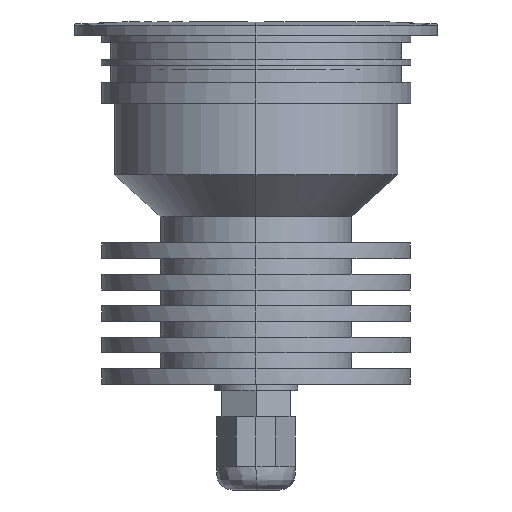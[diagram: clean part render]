
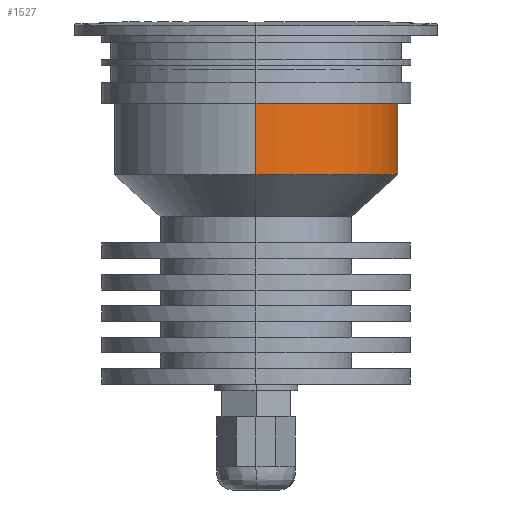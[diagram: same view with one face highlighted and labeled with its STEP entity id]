
A CAD part, left-side view. The second image highlights one B-rep face of the part: STEP entity #1527.
In plain terms, the highlighted free-form (B-spline) face has degree [1, 2] with [2, 5] control points.
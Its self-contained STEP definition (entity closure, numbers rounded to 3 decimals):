
#1527=ADVANCED_FACE('',(#2897),#44705,.T.);
#2897=FACE_OUTER_BOUND('',#4370,.T.);
#4370=EDGE_LOOP('',(#8775,#8776,#8777,#8778));
#8775=ORIENTED_EDGE('',*,*,#31938,.F.);
#8776=ORIENTED_EDGE('',*,*,#31940,.T.);
#8777=ORIENTED_EDGE('',*,*,#31941,.T.);
#8778=ORIENTED_EDGE('',*,*,#31942,.T.);
#12583=(
BOUNDED_CURVE()
B_SPLINE_CURVE(2,(#88150,#88151,#88152,#88153,#88154),.UNSPECIFIED.,.F.,
 .F.)
B_SPLINE_CURVE_WITH_KNOTS((3,2,3),(0.,61.189,122.378),
 .UNSPECIFIED.)
CURVE()
GEOMETRIC_REPRESENTATION_ITEM()
RATIONAL_B_SPLINE_CURVE((1.,0.707,1.,0.707,1.))
REPRESENTATION_ITEM('')
);
#12584=(
BOUNDED_CURVE()
B_SPLINE_CURVE(2,(#88167,#88168,#88169,#88170,#88171),.UNSPECIFIED.,.F.,
 .F.)
B_SPLINE_CURVE_WITH_KNOTS((3,2,3),(0.,61.189,122.378),
 .UNSPECIFIED.)
CURVE()
GEOMETRIC_REPRESENTATION_ITEM()
RATIONAL_B_SPLINE_CURVE((1.,0.707,1.,0.707,1.))
REPRESENTATION_ITEM('')
);
#16869=PCURVE('',#44704,#23629);
#16871=PCURVE('',#44705,#23631);
#16872=PCURVE('',#44705,#23632);
#16873=PCURVE('',#44705,#23633);
#16874=PCURVE('',#44705,#23634);
#16875=PCURVE('',#44706,#23635);
#17399=PCURVE('',#44800,#24159);
#17401=PCURVE('',#44800,#24161);
#23629=DEFINITIONAL_REPRESENTATION('',(#38268),#122661);
#23631=DEFINITIONAL_REPRESENTATION('',(#38271),#122661);
#23632=DEFINITIONAL_REPRESENTATION('',(#38273),#122661);
#23633=DEFINITIONAL_REPRESENTATION('',(#38274),#122661);
#23634=DEFINITIONAL_REPRESENTATION('',(#38276),#122661);
#23635=DEFINITIONAL_REPRESENTATION('',(#38277),#122661);
#24159=DEFINITIONAL_REPRESENTATION('',(#38984),#122661);
#24161=DEFINITIONAL_REPRESENTATION('',(#38986),#122661);
#28558=SURFACE_CURVE('',#12583,(#16869,#16871),.PCURVE_S1.);
#28560=SURFACE_CURVE('',#38272,(#16872,#17401),.PCURVE_S1.);
#28561=SURFACE_CURVE('',#12584,(#16873,#16875),.PCURVE_S1.);
#28562=SURFACE_CURVE('',#38275,(#16874,#17399),.PCURVE_S1.);
#31938=EDGE_CURVE('',#43351,#43510,#28558,.T.);
#31940=EDGE_CURVE('',#43351,#43350,#28560,.T.);
#31941=EDGE_CURVE('',#43350,#43511,#28561,.T.);
#31942=EDGE_CURVE('',#43511,#43510,#28562,.T.);
#38268=B_SPLINE_CURVE_WITH_KNOTS('',1,(#88155,#88156),.UNSPECIFIED.,.F.,
 .F.,(2,2),(0.,122.378),.UNSPECIFIED.);
#38271=B_SPLINE_CURVE_WITH_KNOTS('',1,(#88161,#88162),.UNSPECIFIED.,.F.,
 .F.,(2,2),(0.,122.378),.UNSPECIFIED.);
#38272=B_SPLINE_CURVE_WITH_KNOTS('',1,(#88163,#88164),.UNSPECIFIED.,.F.,
 .F.,(2,2),(39.894,60.039),.UNSPECIFIED.);
#38273=B_SPLINE_CURVE_WITH_KNOTS('',1,(#88165,#88166),.UNSPECIFIED.,.F.,
 .F.,(2,2),(39.894,60.039),.UNSPECIFIED.);
#38274=B_SPLINE_CURVE_WITH_KNOTS('',1,(#88172,#88173),.UNSPECIFIED.,.F.,
 .F.,(2,2),(0.,122.378),.UNSPECIFIED.);
#38275=B_SPLINE_CURVE_WITH_KNOTS('',1,(#88174,#88175),.UNSPECIFIED.,.F.,
 .F.,(2,2),(-60.039,-39.894),.UNSPECIFIED.);
#38276=B_SPLINE_CURVE_WITH_KNOTS('',1,(#88176,#88177),.UNSPECIFIED.,.F.,
 .F.,(2,2),(-60.039,-39.894),.UNSPECIFIED.);
#38277=B_SPLINE_CURVE_WITH_KNOTS('',1,(#88178,#88179),.UNSPECIFIED.,.F.,
 .F.,(2,2),(0.,122.378),.UNSPECIFIED.);
#38984=B_SPLINE_CURVE_WITH_KNOTS('',1,(#92213,#92214),.UNSPECIFIED.,.F.,
 .F.,(2,2),(-60.039,-39.894),.UNSPECIFIED.);
#38986=B_SPLINE_CURVE_WITH_KNOTS('',1,(#92222,#92223),.UNSPECIFIED.,.F.,
 .F.,(2,2),(39.894,60.039),.UNSPECIFIED.);
#43350=VERTEX_POINT('',#87635);
#43351=VERTEX_POINT('',#87636);
#43510=VERTEX_POINT('',#87795);
#43511=VERTEX_POINT('',#87796);
#44704=(
BOUNDED_SURFACE()
B_SPLINE_SURFACE(1,2,((#85803,#85804,#85805,#85806,#85807),(#85808,#85809,
#85810,#85811,#85812)),.UNSPECIFIED.,.F.,.F.,.F.)
B_SPLINE_SURFACE_WITH_KNOTS((2,2),(3,2,3),(38.343,39.894),
(0.,61.189,122.378),.UNSPECIFIED.)
GEOMETRIC_REPRESENTATION_ITEM()
RATIONAL_B_SPLINE_SURFACE(((1.,0.707,1.,0.707,1.),
(1.,0.707,1.,0.707,1.)))
REPRESENTATION_ITEM('')
SURFACE()
);
#44705=(
BOUNDED_SURFACE()
B_SPLINE_SURFACE(1,2,((#85813,#85814,#85815,#85816,#85817),(#85818,#85819,
#85820,#85821,#85822)),.UNSPECIFIED.,.F.,.F.,.F.)
B_SPLINE_SURFACE_WITH_KNOTS((2,2),(3,2,3),(39.894,60.039),
(0.,61.189,122.378),.UNSPECIFIED.)
GEOMETRIC_REPRESENTATION_ITEM()
RATIONAL_B_SPLINE_SURFACE(((1.,0.707,1.,0.707,1.),
(1.,0.707,1.,0.707,1.)))
REPRESENTATION_ITEM('')
SURFACE()
);
#44706=(
BOUNDED_SURFACE()
B_SPLINE_SURFACE(1,2,((#85823,#85824,#85825,#85826,#85827),(#85828,#85829,
#85830,#85831,#85832)),.UNSPECIFIED.,.F.,.F.,.F.)
B_SPLINE_SURFACE_WITH_KNOTS((2,2),(3,2,3),(60.039,72.006),
(0.,61.189,122.378),.UNSPECIFIED.)
GEOMETRIC_REPRESENTATION_ITEM()
RATIONAL_B_SPLINE_SURFACE(((1.,0.707,1.,0.707,1.),
(1.,0.707,1.,0.707,1.)))
REPRESENTATION_ITEM('')
SURFACE()
);
#44800=(
BOUNDED_SURFACE()
B_SPLINE_SURFACE(1,2,((#86783,#86784,#86785,#86786,#86787),(#86788,#86789,
#86790,#86791,#86792)),.UNSPECIFIED.,.F.,.F.,.F.)
B_SPLINE_SURFACE_WITH_KNOTS((2,2),(3,2,3),(39.894,60.039),
(122.378,183.567,244.756),.UNSPECIFIED.)
GEOMETRIC_REPRESENTATION_ITEM()
RATIONAL_B_SPLINE_SURFACE(((1.,0.707,1.,0.707,1.),
(1.,0.707,1.,0.707,1.)))
REPRESENTATION_ITEM('')
SURFACE()
);
#85803=CARTESIAN_POINT('',(-25.598,0.,72.144));
#85804=CARTESIAN_POINT('',(-25.598,-25.598,72.144));
#85805=CARTESIAN_POINT('',(0.,-25.598,72.144));
#85806=CARTESIAN_POINT('',(25.598,-25.598,72.144));
#85807=CARTESIAN_POINT('',(25.598,0.,72.144));
#85808=CARTESIAN_POINT('',(-27.15,0.,72.144));
#85809=CARTESIAN_POINT('',(-27.15,-27.15,72.144));
#85810=CARTESIAN_POINT('',(0.,-27.15,72.144));
#85811=CARTESIAN_POINT('',(27.15,-27.15,72.144));
#85812=CARTESIAN_POINT('',(27.15,0.,72.144));
#85813=CARTESIAN_POINT('',(-27.15,0.,72.144));
#85814=CARTESIAN_POINT('',(-27.15,-27.15,72.144));
#85815=CARTESIAN_POINT('',(0.,-27.15,72.144));
#85816=CARTESIAN_POINT('',(27.15,-27.15,72.144));
#85817=CARTESIAN_POINT('',(27.15,0.,72.144));
#85818=CARTESIAN_POINT('',(-27.15,0.,52.));
#85819=CARTESIAN_POINT('',(-27.15,-27.15,52.));
#85820=CARTESIAN_POINT('',(0.,-27.15,52.));
#85821=CARTESIAN_POINT('',(27.15,-27.15,52.));
#85822=CARTESIAN_POINT('',(27.15,0.,52.));
#85823=CARTESIAN_POINT('',(-27.15,0.,52.));
#85824=CARTESIAN_POINT('',(-27.15,-27.15,52.));
#85825=CARTESIAN_POINT('',(0.,-27.15,52.));
#85826=CARTESIAN_POINT('',(27.15,-27.15,52.));
#85827=CARTESIAN_POINT('',(27.15,0.,52.));
#85828=CARTESIAN_POINT('',(-18.25,0.,44.));
#85829=CARTESIAN_POINT('',(-18.25,-18.25,44.));
#85830=CARTESIAN_POINT('',(0.,-18.25,44.));
#85831=CARTESIAN_POINT('',(18.25,-18.25,44.));
#85832=CARTESIAN_POINT('',(18.25,0.,44.));
#86783=CARTESIAN_POINT('',(27.15,0.,72.144));
#86784=CARTESIAN_POINT('',(27.15,27.15,72.144));
#86785=CARTESIAN_POINT('',(0.,27.15,72.144));
#86786=CARTESIAN_POINT('',(-27.15,27.15,72.144));
#86787=CARTESIAN_POINT('',(-27.15,0.,72.144));
#86788=CARTESIAN_POINT('',(27.15,0.,52.));
#86789=CARTESIAN_POINT('',(27.15,27.15,52.));
#86790=CARTESIAN_POINT('',(0.,27.15,52.));
#86791=CARTESIAN_POINT('',(-27.15,27.15,52.));
#86792=CARTESIAN_POINT('',(-27.15,0.,52.));
#87635=CARTESIAN_POINT('',(-27.15,0.,52.));
#87636=CARTESIAN_POINT('',(-27.15,0.,72.144));
#87795=CARTESIAN_POINT('',(27.15,0.,72.144));
#87796=CARTESIAN_POINT('',(27.15,0.,52.));
#88150=CARTESIAN_POINT('',(-27.15,0.,72.144));
#88151=CARTESIAN_POINT('',(-27.15,-27.15,72.144));
#88152=CARTESIAN_POINT('',(0.,-27.15,72.144));
#88153=CARTESIAN_POINT('',(27.15,-27.15,72.144));
#88154=CARTESIAN_POINT('',(27.15,0.,72.144));
#88155=CARTESIAN_POINT('',(39.894,0.));
#88156=CARTESIAN_POINT('',(39.894,122.378));
#88161=CARTESIAN_POINT('',(39.894,0.));
#88162=CARTESIAN_POINT('',(39.894,122.378));
#88163=CARTESIAN_POINT('',(-27.15,0.,72.144));
#88164=CARTESIAN_POINT('',(-27.15,0.,52.));
#88165=CARTESIAN_POINT('',(39.894,0.));
#88166=CARTESIAN_POINT('',(60.039,0.));
#88167=CARTESIAN_POINT('',(-27.15,0.,52.));
#88168=CARTESIAN_POINT('',(-27.15,-27.15,52.));
#88169=CARTESIAN_POINT('',(0.,-27.15,52.));
#88170=CARTESIAN_POINT('',(27.15,-27.15,52.));
#88171=CARTESIAN_POINT('',(27.15,0.,52.));
#88172=CARTESIAN_POINT('',(60.039,0.));
#88173=CARTESIAN_POINT('',(60.039,122.378));
#88174=CARTESIAN_POINT('',(27.15,0.,52.));
#88175=CARTESIAN_POINT('',(27.15,0.,72.144));
#88176=CARTESIAN_POINT('',(60.039,122.378));
#88177=CARTESIAN_POINT('',(39.894,122.378));
#88178=CARTESIAN_POINT('',(60.039,0.));
#88179=CARTESIAN_POINT('',(60.039,122.378));
#92213=CARTESIAN_POINT('',(60.039,122.378));
#92214=CARTESIAN_POINT('',(39.894,122.378));
#92222=CARTESIAN_POINT('',(39.894,244.756));
#92223=CARTESIAN_POINT('',(60.039,244.756));
#122661=(
GEOMETRIC_REPRESENTATION_CONTEXT(2)
PARAMETRIC_REPRESENTATION_CONTEXT()
REPRESENTATION_CONTEXT('pspace','')
);
